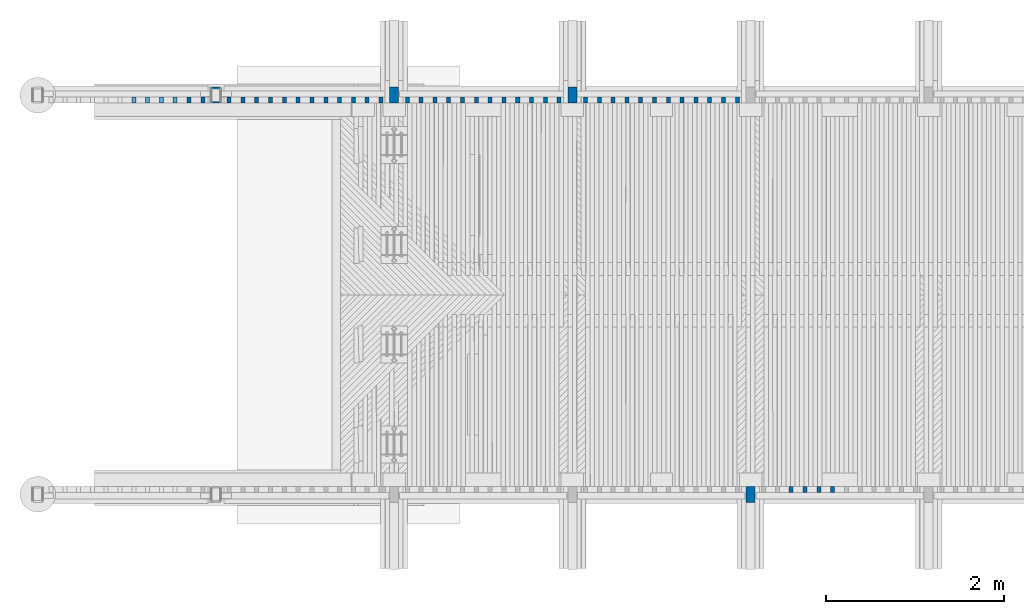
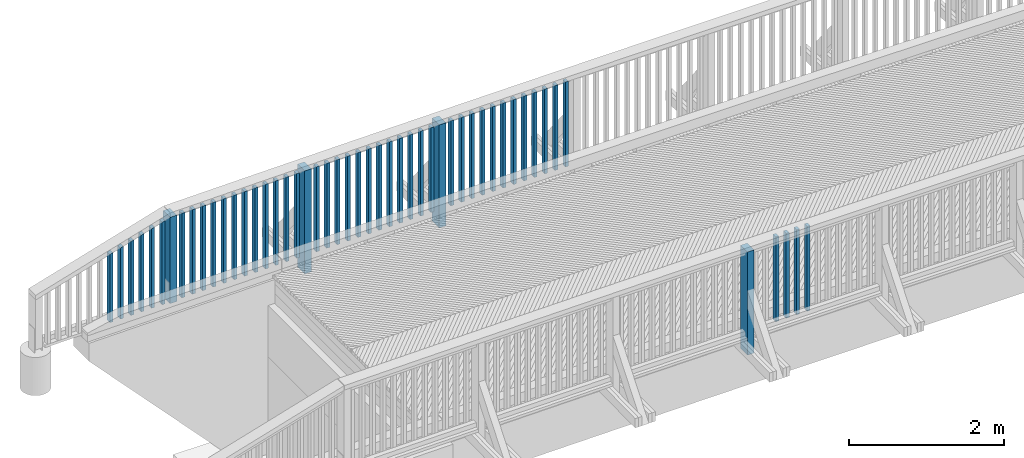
# One storey, part 7 of 53: 50 columns.
"""IFC2X3 building model written with IfcOpenShell, lengths in millimetres."""

from ifc_helpers import new_model, si_unit, frame, origin_with_axes, place, context, subcontext, project, spatial, faceted_brep, material, type_object, element, save


model = new_model("IFC2X3")

# Units and contexts
model_context = context("Model", 3, precision=1e-05, world=origin_with_axes())
body_context = subcontext(model_context, "Body", "Model", "MODEL_VIEW")
ifc_project = project(units=[si_unit("LENGTHUNIT", "METRE", prefix="MILLI"), si_unit("AREAUNIT", "SQUARE_METRE"), si_unit("VOLUMEUNIT", "CUBIC_METRE"), si_unit("MASSUNIT", "GRAM", prefix="KILO"), si_unit("TIMEUNIT", "SECOND"), si_unit("PLANEANGLEUNIT", "RADIAN"), si_unit("SOLIDANGLEUNIT", "STERADIAN"), si_unit("THERMODYNAMICTEMPERATUREUNIT", "DEGREE_CELSIUS"), si_unit("LUMINOUSINTENSITYUNIT", "LUMEN")], contexts=[model_context])

# Site, building, storey
site_placement = place(None, origin_with_axes())
site = spatial("IfcSite", under=ifc_project, at=site_placement, Name="Undefined", CompositionType="ELEMENT")
building_placement = place(site_placement, origin_with_axes())
building = spatial("IfcBuilding", under=site, at=building_placement, Name="Undefined", CompositionType="ELEMENT")
storey_placement = place(building_placement, origin_with_axes())
storey = spatial("IfcBuildingStorey", under=building, at=storey_placement, Name="Undefined", CompositionType="ELEMENT", Elevation=0.0)

# Columns
ifc_material = material(Name="TIMBER/Timber_Undefined")
column_type_1 = type_object("IfcColumnType", Name="180*100", PredefinedType="NOTDEFINED")
column_1_placement = place(storey_placement, frame((-1999.99999924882, 44604.9879080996, 3128.37999999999), z_axis=(0.0, -1.0, 0.0), x_axis=(0.0, 0.0, 1.0)))
element("IfcColumn", 1, at=column_1_placement, inside=storey, type_object=column_type_1, material=ifc_material, Name="KAIDEPYLVÄS", ObjectType="180*100", context=body_context, shape_type="Brep", body=[
    faceted_brep([(-5.71000000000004, 50.0, -90.0), (-5.71000000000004, 50.0, 90.0), (1351.21940355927, 50.0, 90.0), (1351.21940355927, 50.0, -90.0), (-5.71000000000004, -50.0, 90.0), (1352.87649222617, -50.0, 90.0), (-5.71000000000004, -50.0, -90.0), (1352.87649222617, -50.0, -90.0)], [[[0, 1, 2, 3]], [[1, 4, 5, 2]], [[4, 6, 7, 5]], [[6, 0, 3, 7]], [[5, 7, 3, 2]], [[6, 4, 1, 0]]]),
])
for number, where, z_axis, x_axis in (
    (2, (2000.00006783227, 44604.9879081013, 2913.46176658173), (0.0, -1.0, 0.0), (0.0, 0.0, 1.0)),
    (3, (7.51175548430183e-07, 44604.9879081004, 2890.26), (0.0, -1.0, 0.0), (0.0, 0.0, 1.0)),
    (4, (4000.00006783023, 40125.0120918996, 2930.03388043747), (0.0, 1.0, 0.0), (0.0, 0.0, 1.0)),
):
    element("IfcColumn", number, at=place(storey_placement, frame(where, z_axis=z_axis, x_axis=x_axis)), inside=storey, type_object=column_type_1, material=ifc_material, Name="KAIDEPYLVÄS", ObjectType="180*100", context=body_context, shape_type="Brep", body=[
        faceted_brep([(0.0, 50.0, -89.9999999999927), (0.0, 50.0, 90.0), (1620.0, 50.0, 90.0), (1620.0, 50.0, -90.0), (0.0, -49.9999999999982, 90.0000000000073), (1620.0, -50.0, 90.0), (-3.63797880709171e-12, -49.9999999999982, -90.0), (1620.0, -50.0, -90.0)], [[[0, 1, 2, 3]], [[1, 4, 5, 2]], [[4, 6, 7, 5]], [[6, 0, 3, 7]], [[5, 7, 3, 2]], [[6, 4, 1, 0]]]),
    ])
column_type_2 = type_object("IfcColumnType", Name="70*45", PredefinedType="NOTDEFINED")
column_2_placement = place(storey_placement, frame((-2147.49999924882, 44549.9879080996, 3079.15), z_axis=(0.0, 1.0, 0.0), x_axis=(0.0, 0.0, 1.0)))
element("IfcColumn", 5, at=column_2_placement, inside=storey, type_object=column_type_2, material=ifc_material, Name="BEAM", ObjectType="70*45", context=body_context, shape_type="Brep", body=[
    faceted_brep([(69.4380529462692, 22.5, -35.0), (69.4380529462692, 22.5, 35.0), (1375.94682334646, 22.5, 35.0), (1375.94682334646, 22.5, -35.0), (68.751055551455, -22.5, 35.0), (1362.51131766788, -22.5, 35.0), (68.751055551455, -22.5, -35.0), (1362.51131766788, -22.5, -35.0)], [[[0, 1, 2, 3]], [[1, 4, 5, 2]], [[4, 6, 7, 5]], [[6, 0, 3, 7]], [[5, 7, 3, 2]], [[6, 4, 1, 0]]]),
])
column_3_placement = place(storey_placement, frame((-2302.49999924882, 44549.9879080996, 3079.15), z_axis=(0.0, 1.0, 0.0), x_axis=(0.0, 0.0, 1.0)))
element("IfcColumn", 6, at=column_3_placement, inside=storey, type_object=column_type_2, material=ifc_material, Name="BEAM", ObjectType="70*45", context=body_context, shape_type="Brep", body=[
    faceted_brep([(67.0717285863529, 22.5, -35.0), (67.0717285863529, 22.5, 35.0), (1329.66897045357, 22.5, 35.0), (1329.66897045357, 22.5, -35.0), (66.3847311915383, -22.5, 35.0), (1316.23346477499, -22.5, 35.0), (66.3847311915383, -22.5, -35.0), (1316.23346477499, -22.5, -35.0)], [[[0, 1, 2, 3]], [[1, 4, 5, 2]], [[4, 6, 7, 5]], [[6, 0, 3, 7]], [[5, 7, 3, 2]], [[6, 4, 1, 0]]]),
])
column_4_placement = place(storey_placement, frame((-2457.49999924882, 44549.9879080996, 3079.15), z_axis=(0.0, 1.0, 0.0), x_axis=(0.0, 0.0, 1.0)))
element("IfcColumn", 7, at=column_4_placement, inside=storey, type_object=column_type_2, material=ifc_material, Name="BEAM", ObjectType="70*45", context=body_context, shape_type="Brep", body=[
    faceted_brep([(64.7054042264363, 22.5, -35.0), (64.7054042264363, 22.5, 35.0), (1283.39111756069, 22.5, 35.0), (1283.39111756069, 22.5, -35.0), (64.0184068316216, -22.5, 35.0), (1269.95561188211, -22.5, 35.0), (64.0184068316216, -22.5, -35.0), (1269.95561188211, -22.5, -35.0)], [[[0, 1, 2, 3]], [[1, 4, 5, 2]], [[4, 6, 7, 5]], [[6, 0, 3, 7]], [[5, 7, 3, 2]], [[6, 4, 1, 0]]]),
])
column_5_placement = place(storey_placement, frame((-2612.49999924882, 44549.9879080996, 3079.15), z_axis=(0.0, 1.0, 0.0), x_axis=(0.0, 0.0, 1.0)))
element("IfcColumn", 8, at=column_5_placement, inside=storey, type_object=column_type_2, material=ifc_material, Name="BEAM", ObjectType="70*45", context=body_context, shape_type="Brep", body=[
    faceted_brep([(62.3390798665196, 22.5, -35.0), (62.3390798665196, 22.5, 35.0), (1237.1132646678, 22.5, 35.0), (1237.1132646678, 22.5, -35.0), (61.6520824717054, -22.5, 35.0), (1223.67775898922, -22.5, 35.0), (61.6520824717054, -22.5, -35.0), (1223.67775898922, -22.5, -35.0)], [[[0, 1, 2, 3]], [[1, 4, 5, 2]], [[4, 6, 7, 5]], [[6, 0, 3, 7]], [[5, 7, 3, 2]], [[6, 4, 1, 0]]]),
])
column_6_placement = place(storey_placement, frame((-2767.49999924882, 44549.9879080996, 3079.15), z_axis=(0.0, 1.0, 0.0), x_axis=(0.0, 0.0, 1.0)))
element("IfcColumn", 9, at=column_6_placement, inside=storey, type_object=column_type_2, material=ifc_material, Name="BEAM", ObjectType="70*45", context=body_context, shape_type="Brep", body=[
    faceted_brep([(59.9727555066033, 22.5, -35.0), (59.9727555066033, 22.5, 35.0), (1190.83541177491, 22.5, 35.0), (1190.83541177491, 22.5, -35.0), (59.2857581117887, -22.5, 35.0), (1177.39990609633, -22.5, 35.0), (59.2857581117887, -22.5, -35.0), (1177.39990609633, -22.5, -35.0)], [[[0, 1, 2, 3]], [[1, 4, 5, 2]], [[4, 6, 7, 5]], [[6, 0, 3, 7]], [[5, 7, 3, 2]], [[6, 4, 1, 0]]]),
])
column_7_placement = place(storey_placement, frame((-2922.49999924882, 44549.9879080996, 3079.15), z_axis=(0.0, 1.0, 0.0), x_axis=(0.0, 0.0, 1.0)))
element("IfcColumn", 10, at=column_7_placement, inside=storey, type_object=column_type_2, material=ifc_material, Name="BEAM", ObjectType="70*45", context=body_context, shape_type="Brep", body=[
    faceted_brep([(57.6064311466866, 22.5, -35.0), (57.6064311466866, 22.5, 35.0), (1144.55755888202, 22.5, 35.0), (1144.55755888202, 22.5, -35.0), (56.9194337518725, -22.5, 35.0), (1131.12205320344, -22.5, 35.0), (56.9194337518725, -22.5, -35.0), (1131.12205320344, -22.5, -35.0)], [[[0, 1, 2, 3]], [[1, 4, 5, 2]], [[4, 6, 7, 5]], [[6, 0, 3, 7]], [[5, 7, 3, 2]], [[6, 4, 1, 0]]]),
])
column_8_placement = place(storey_placement, frame((-147.499999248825, 44549.9879080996, 3109.68000000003), z_axis=(0.0, 1.0, 0.0), x_axis=(0.0, 0.0, 1.0)))
element("IfcColumn", 11, at=column_8_placement, inside=storey, type_object=column_type_2, material=ifc_material, Name="BEAM", ObjectType="70*45", context=body_context, shape_type="Brep", body=[
    faceted_brep([(69.4380529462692, 22.5, -35.0), (69.4380529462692, 22.5, 35.0), (1399.43805294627, 22.5, 35.0), (1399.43805294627, 22.5, -35.0), (68.751055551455, -22.5, 35.0), (1398.75105555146, -22.5, 35.0), (68.751055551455, -22.5, -35.0), (1398.75105555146, -22.5, -35.0)], [[[0, 1, 2, 3]], [[1, 4, 5, 2]], [[4, 6, 7, 5]], [[6, 0, 3, 7]], [[5, 7, 3, 2]], [[6, 4, 1, 0]]]),
])
column_9_placement = place(storey_placement, frame((-302.499999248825, 44549.9879080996, 3109.68000000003), z_axis=(0.0, 1.0, 0.0), x_axis=(0.0, 0.0, 1.0)))
element("IfcColumn", 12, at=column_9_placement, inside=storey, type_object=column_type_2, material=ifc_material, Name="BEAM", ObjectType="70*45", context=body_context, shape_type="Brep", body=[
    faceted_brep([(67.0717285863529, 22.5, -35.0), (67.0717285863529, 22.5, 35.0), (1397.07172858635, 22.5, 35.0), (1397.07172858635, 22.5, -35.0), (66.3847311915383, -22.5, 35.0), (1396.38473119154, -22.5, 35.0), (66.3847311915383, -22.5, -35.0), (1396.38473119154, -22.5, -35.0)], [[[0, 1, 2, 3]], [[1, 4, 5, 2]], [[4, 6, 7, 5]], [[6, 0, 3, 7]], [[5, 7, 3, 2]], [[6, 4, 1, 0]]]),
])
column_10_placement = place(storey_placement, frame((-457.499999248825, 44549.9879080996, 3109.68000000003), z_axis=(0.0, 1.0, 0.0), x_axis=(0.0, 0.0, 1.0)))
element("IfcColumn", 13, at=column_10_placement, inside=storey, type_object=column_type_2, material=ifc_material, Name="BEAM", ObjectType="70*45", context=body_context, shape_type="Brep", body=[
    faceted_brep([(64.7054042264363, 22.5, -35.0), (64.7054042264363, 22.5, 35.0), (1394.70540422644, 22.5, 35.0), (1394.70540422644, 22.5, -35.0), (64.0184068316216, -22.5, 35.0), (1394.01840683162, -22.5, 35.0), (64.0184068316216, -22.5, -35.0), (1394.01840683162, -22.5, -35.0)], [[[0, 1, 2, 3]], [[1, 4, 5, 2]], [[4, 6, 7, 5]], [[6, 0, 3, 7]], [[5, 7, 3, 2]], [[6, 4, 1, 0]]]),
])
column_11_placement = place(storey_placement, frame((-612.499999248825, 44549.9879080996, 3109.68000000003), z_axis=(0.0, 1.0, 0.0), x_axis=(0.0, 0.0, 1.0)))
element("IfcColumn", 14, at=column_11_placement, inside=storey, type_object=column_type_2, material=ifc_material, Name="BEAM", ObjectType="70*45", context=body_context, shape_type="Brep", body=[
    faceted_brep([(62.3390798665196, 22.5, -35.0), (62.3390798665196, 22.5, 35.0), (1392.33907986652, 22.5, 35.0), (1392.33907986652, 22.5, -35.0), (61.6520824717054, -22.5, 35.0), (1391.65208247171, -22.5, 35.0), (61.6520824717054, -22.5, -35.0), (1391.65208247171, -22.5, -35.0)], [[[0, 1, 2, 3]], [[1, 4, 5, 2]], [[4, 6, 7, 5]], [[6, 0, 3, 7]], [[5, 7, 3, 2]], [[6, 4, 1, 0]]]),
])
column_12_placement = place(storey_placement, frame((-767.499999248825, 44549.9879080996, 3109.68000000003), z_axis=(0.0, 1.0, 0.0), x_axis=(0.0, 0.0, 1.0)))
element("IfcColumn", 15, at=column_12_placement, inside=storey, type_object=column_type_2, material=ifc_material, Name="BEAM", ObjectType="70*45", context=body_context, shape_type="Brep", body=[
    faceted_brep([(59.9727555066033, 22.5, -35.0), (59.9727555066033, 22.5, 35.0), (1389.97275550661, 22.5, 35.0), (1389.97275550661, 22.5, -35.0), (59.2857581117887, -22.5, 35.0), (1389.28575811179, -22.5, 35.0), (59.2857581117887, -22.5, -35.0), (1389.28575811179, -22.5, -35.0)], [[[0, 1, 2, 3]], [[1, 4, 5, 2]], [[4, 6, 7, 5]], [[6, 0, 3, 7]], [[5, 7, 3, 2]], [[6, 4, 1, 0]]]),
])
column_13_placement = place(storey_placement, frame((-922.499999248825, 44549.9879080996, 3109.68000000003), z_axis=(0.0, 1.0, 0.0), x_axis=(0.0, 0.0, 1.0)))
element("IfcColumn", 16, at=column_13_placement, inside=storey, type_object=column_type_2, material=ifc_material, Name="BEAM", ObjectType="70*45", context=body_context, shape_type="Brep", body=[
    faceted_brep([(57.6064311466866, 22.5, -35.0), (57.6064311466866, 22.5, 35.0), (1387.60643114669, 22.5, 35.0), (1387.60643114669, 22.5, -35.0), (56.9194337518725, -22.5, 35.0), (1386.91943375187, -22.5, 35.0), (56.9194337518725, -22.5, -35.0), (1386.91943375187, -22.5, -35.0)], [[[0, 1, 2, 3]], [[1, 4, 5, 2]], [[4, 6, 7, 5]], [[6, 0, 3, 7]], [[5, 7, 3, 2]], [[6, 4, 1, 0]]]),
])
column_14_placement = place(storey_placement, frame((-1077.49999924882, 44549.9879080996, 3109.68000000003), z_axis=(0.0, 1.0, 0.0), x_axis=(0.0, 0.0, 1.0)))
element("IfcColumn", 17, at=column_14_placement, inside=storey, type_object=column_type_2, material=ifc_material, Name="BEAM", ObjectType="70*45", context=body_context, shape_type="Brep", body=[
    faceted_brep([(55.2401067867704, 22.5, -35.0), (55.2401067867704, 22.5, 35.0), (1385.24010678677, 22.5, 35.0), (1385.24010678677, 22.5, -35.0), (54.5531093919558, -22.5, 35.0), (1384.55310939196, -22.5, 35.0), (54.5531093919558, -22.5, -35.0), (1384.55310939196, -22.5, -35.0)], [[[0, 1, 2, 3]], [[1, 4, 5, 2]], [[4, 6, 7, 5]], [[6, 0, 3, 7]], [[5, 7, 3, 2]], [[6, 4, 1, 0]]]),
])
column_15_placement = place(storey_placement, frame((-1232.49999924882, 44549.9879080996, 3109.68000000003), z_axis=(0.0, 1.0, 0.0), x_axis=(0.0, 0.0, 1.0)))
element("IfcColumn", 18, at=column_15_placement, inside=storey, type_object=column_type_2, material=ifc_material, Name="BEAM", ObjectType="70*45", context=body_context, shape_type="Brep", body=[
    faceted_brep([(52.8737824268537, 22.5, -35.0), (52.8737824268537, 22.5, 35.0), (1382.87378242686, 22.5, 35.0), (1382.87378242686, 22.5, -35.0), (52.1867850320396, -22.5, 35.0), (1382.18678503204, -22.5, 35.0), (52.1867850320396, -22.5, -35.0), (1382.18678503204, -22.5, -35.0)], [[[0, 1, 2, 3]], [[1, 4, 5, 2]], [[4, 6, 7, 5]], [[6, 0, 3, 7]], [[5, 7, 3, 2]], [[6, 4, 1, 0]]]),
])
column_16_placement = place(storey_placement, frame((-1387.49999924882, 44549.9879080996, 3109.68000000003), z_axis=(0.0, 1.0, 0.0), x_axis=(0.0, 0.0, 1.0)))
element("IfcColumn", 19, at=column_16_placement, inside=storey, type_object=column_type_2, material=ifc_material, Name="BEAM", ObjectType="70*45", context=body_context, shape_type="Brep", body=[
    faceted_brep([(50.5074580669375, 22.5, -35.0), (50.5074580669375, 22.5, 35.0), (1380.50745806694, 22.5, 35.0), (1380.50745806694, 22.5, -35.0), (49.8204606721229, -22.5, 35.0), (1379.82046067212, -22.5, 35.0), (49.8204606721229, -22.5, -35.0), (1379.82046067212, -22.5, -35.0)], [[[0, 1, 2, 3]], [[1, 4, 5, 2]], [[4, 6, 7, 5]], [[6, 0, 3, 7]], [[5, 7, 3, 2]], [[6, 4, 1, 0]]]),
])
column_17_placement = place(storey_placement, frame((-1542.49999924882, 44549.9879080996, 3109.68000000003), z_axis=(0.0, 1.0, 0.0), x_axis=(0.0, 0.0, 1.0)))
element("IfcColumn", 20, at=column_17_placement, inside=storey, type_object=column_type_2, material=ifc_material, Name="BEAM", ObjectType="70*45", context=body_context, shape_type="Brep", body=[
    faceted_brep([(48.1411337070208, 22.5, -35.0), (48.1411337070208, 22.5, 35.0), (1378.14113370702, 22.5, 35.0), (1378.14113370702, 22.5, -35.0), (47.4541363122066, -22.5, 35.0), (1377.45413631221, -22.5, 35.0), (47.4541363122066, -22.5, -35.0), (1377.45413631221, -22.5, -35.0)], [[[0, 1, 2, 3]], [[1, 4, 5, 2]], [[4, 6, 7, 5]], [[6, 0, 3, 7]], [[5, 7, 3, 2]], [[6, 4, 1, 0]]]),
])
column_18_placement = place(storey_placement, frame((-1697.49999924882, 44549.9879080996, 3109.68000000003), z_axis=(0.0, 1.0, 0.0), x_axis=(0.0, 0.0, 1.0)))
element("IfcColumn", 21, at=column_18_placement, inside=storey, type_object=column_type_2, material=ifc_material, Name="BEAM", ObjectType="70*45", context=body_context, shape_type="Brep", body=[
    faceted_brep([(45.7748093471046, 22.5, -35.0), (45.7748093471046, 22.5, 35.0), (1375.77480934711, 22.5, 35.0), (1375.77480934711, 22.5, -35.0), (45.0878119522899, -22.5, 35.0), (1375.08781195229, -22.5, 35.0), (45.0878119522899, -22.5, -35.0), (1375.08781195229, -22.5, -35.0)], [[[0, 1, 2, 3]], [[1, 4, 5, 2]], [[4, 6, 7, 5]], [[6, 0, 3, 7]], [[5, 7, 3, 2]], [[6, 4, 1, 0]]]),
])
column_19_placement = place(storey_placement, frame((-1852.49999924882, 44549.9879080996, 3109.68000000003), z_axis=(0.0, 1.0, 0.0), x_axis=(0.0, 0.0, 1.0)))
element("IfcColumn", 22, at=column_19_placement, inside=storey, type_object=column_type_2, material=ifc_material, Name="BEAM", ObjectType="70*45", context=body_context, shape_type="Brep", body=[
    faceted_brep([(43.4084849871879, 22.5, -35.0), (43.4084849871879, 22.5, 35.0), (1373.40848498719, 22.5, 35.0), (1373.40848498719, 22.5, -35.0), (42.7214875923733, -22.5, 35.0), (1372.72148759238, -22.5, 35.0), (42.7214875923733, -22.5, -35.0), (1372.72148759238, -22.5, -35.0)], [[[0, 1, 2, 3]], [[1, 4, 5, 2]], [[4, 6, 7, 5]], [[6, 0, 3, 7]], [[5, 7, 3, 2]], [[6, 4, 1, 0]]]),
])
column_20_placement = place(storey_placement, frame((3852.50000075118, 44549.9879080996, 3109.68000000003), z_axis=(0.0, 1.0, 0.0), x_axis=(0.0, 0.0, 1.0)))
element("IfcColumn", 23, at=column_20_placement, inside=storey, type_object=column_type_2, material=ifc_material, Name="BEAM", ObjectType="70*45", context=body_context, shape_type="Brep", body=[
    faceted_brep([(104.706302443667, 22.5, -35.0), (104.706302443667, 22.5, 35.0), (1439.69971686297, 22.5, 35.0), (1439.69971686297, 22.5, -35.0), (104.313805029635, -22.5, 35.0), (1439.30721944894, -22.5, 35.0), (104.313805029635, -22.5, -35.0), (1439.30721944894, -22.5, -35.0)], [[[0, 1, 2, 3]], [[1, 4, 5, 2]], [[4, 6, 7, 5]], [[6, 0, 3, 7]], [[5, 7, 3, 2]], [[6, 4, 1, 0]]]),
])
column_21_placement = place(storey_placement, frame((3697.50000075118, 44549.9879080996, 3109.68000000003), z_axis=(0.0, 1.0, 0.0), x_axis=(0.0, 0.0, 1.0)))
element("IfcColumn", 24, at=column_21_placement, inside=storey, type_object=column_type_2, material=ifc_material, Name="BEAM", ObjectType="70*45", context=body_context, shape_type="Brep", body=[
    faceted_brep([(103.354366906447, 22.5, -35.0), (103.354366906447, 22.5, 35.0), (1438.34778132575, 22.5, 35.0), (1438.34778132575, 22.5, -35.0), (102.961869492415, -22.5, 35.0), (1437.95528391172, -22.5, 35.0), (102.961869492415, -22.5, -35.0), (1437.95528391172, -22.5, -35.0)], [[[0, 1, 2, 3]], [[1, 4, 5, 2]], [[4, 6, 7, 5]], [[6, 0, 3, 7]], [[5, 7, 3, 2]], [[6, 4, 1, 0]]]),
])
column_22_placement = place(storey_placement, frame((3542.50000075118, 44549.9879080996, 3109.68000000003), z_axis=(0.0, 1.0, 0.0), x_axis=(0.0, 0.0, 1.0)))
element("IfcColumn", 25, at=column_22_placement, inside=storey, type_object=column_type_2, material=ifc_material, Name="BEAM", ObjectType="70*45", context=body_context, shape_type="Brep", body=[
    faceted_brep([(102.002431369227, 22.5, -35.0), (102.002431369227, 22.5, 35.0), (1436.99584578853, 22.5, 35.0), (1436.99584578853, 22.5, -35.0), (101.609933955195, -22.5, 35.0), (1436.6033483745, -22.5, 35.0), (101.609933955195, -22.5, -35.0), (1436.6033483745, -22.5, -35.0)], [[[0, 1, 2, 3]], [[1, 4, 5, 2]], [[4, 6, 7, 5]], [[6, 0, 3, 7]], [[5, 7, 3, 2]], [[6, 4, 1, 0]]]),
])
column_23_placement = place(storey_placement, frame((3387.50000075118, 44549.9879080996, 3109.68000000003), z_axis=(0.0, 1.0, 0.0), x_axis=(0.0, 0.0, 1.0)))
element("IfcColumn", 26, at=column_23_placement, inside=storey, type_object=column_type_2, material=ifc_material, Name="BEAM", ObjectType="70*45", context=body_context, shape_type="Brep", body=[
    faceted_brep([(100.650495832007, 22.5, -35.0), (100.650495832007, 22.5, 35.0), (1435.64391025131, 22.5, 35.0), (1435.64391025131, 22.5, -35.0), (100.257998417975, -22.5, 35.0), (1435.25141283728, -22.5, 35.0), (100.257998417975, -22.5, -35.0), (1435.25141283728, -22.5, -35.0)], [[[0, 1, 2, 3]], [[1, 4, 5, 2]], [[4, 6, 7, 5]], [[6, 0, 3, 7]], [[5, 7, 3, 2]], [[6, 4, 1, 0]]]),
])
column_24_placement = place(storey_placement, frame((3232.50000075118, 44549.9879080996, 3109.68000000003), z_axis=(0.0, 1.0, 0.0), x_axis=(0.0, 0.0, 1.0)))
element("IfcColumn", 27, at=column_24_placement, inside=storey, type_object=column_type_2, material=ifc_material, Name="BEAM", ObjectType="70*45", context=body_context, shape_type="Brep", body=[
    faceted_brep([(99.2985602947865, 22.5, -35.0), (99.2985602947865, 22.5, 35.0), (1434.29197471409, 22.5, 35.0), (1434.29197471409, 22.5, -35.0), (98.9060628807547, -22.5, 35.0), (1433.89947730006, -22.5, 35.0), (98.9060628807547, -22.5, -35.0), (1433.89947730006, -22.5, -35.0)], [[[0, 1, 2, 3]], [[1, 4, 5, 2]], [[4, 6, 7, 5]], [[6, 0, 3, 7]], [[5, 7, 3, 2]], [[6, 4, 1, 0]]]),
])
column_25_placement = place(storey_placement, frame((3077.50000075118, 44549.9879080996, 3109.68000000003), z_axis=(0.0, 1.0, 0.0), x_axis=(0.0, 0.0, 1.0)))
element("IfcColumn", 28, at=column_25_placement, inside=storey, type_object=column_type_2, material=ifc_material, Name="BEAM", ObjectType="70*45", context=body_context, shape_type="Brep", body=[
    faceted_brep([(97.9466247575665, 22.5, -35.0), (97.9466247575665, 22.5, 35.0), (1432.94003917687, 22.5, 35.0), (1432.94003917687, 22.5, -35.0), (97.5541273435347, -22.5, 35.0), (1432.54754176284, -22.5, 35.0), (97.5541273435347, -22.5, -35.0), (1432.54754176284, -22.5, -35.0)], [[[0, 1, 2, 3]], [[1, 4, 5, 2]], [[4, 6, 7, 5]], [[6, 0, 3, 7]], [[5, 7, 3, 2]], [[6, 4, 1, 0]]]),
])
column_26_placement = place(storey_placement, frame((2922.50000075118, 44549.9879080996, 3109.68000000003), z_axis=(0.0, 1.0, 0.0), x_axis=(0.0, 0.0, 1.0)))
element("IfcColumn", 29, at=column_26_placement, inside=storey, type_object=column_type_2, material=ifc_material, Name="BEAM", ObjectType="70*45", context=body_context, shape_type="Brep", body=[
    faceted_brep([(96.5946892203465, 22.5, -35.0), (96.5946892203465, 22.5, 35.0), (1431.58810363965, 22.5, 35.0), (1431.58810363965, 22.5, -35.0), (96.2021918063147, -22.5, 35.0), (1431.19560622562, -22.5, 35.0), (96.2021918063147, -22.5, -35.0), (1431.19560622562, -22.5, -35.0)], [[[0, 1, 2, 3]], [[1, 4, 5, 2]], [[4, 6, 7, 5]], [[6, 0, 3, 7]], [[5, 7, 3, 2]], [[6, 4, 1, 0]]]),
])
column_27_placement = place(storey_placement, frame((2767.50000075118, 44549.9879080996, 3109.68000000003), z_axis=(0.0, 1.0, 0.0), x_axis=(0.0, 0.0, 1.0)))
element("IfcColumn", 30, at=column_27_placement, inside=storey, type_object=column_type_2, material=ifc_material, Name="BEAM", ObjectType="70*45", context=body_context, shape_type="Brep", body=[
    faceted_brep([(95.242753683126, 22.5, -35.0), (95.242753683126, 22.5, 35.0), (1430.23616810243, 22.5, 35.0), (1430.23616810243, 22.5, -35.0), (94.8502562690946, -22.5, 35.0), (1429.8436706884, -22.5, 35.0), (94.8502562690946, -22.5, -35.0), (1429.8436706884, -22.5, -35.0)], [[[0, 1, 2, 3]], [[1, 4, 5, 2]], [[4, 6, 7, 5]], [[6, 0, 3, 7]], [[5, 7, 3, 2]], [[6, 4, 1, 0]]]),
])
column_28_placement = place(storey_placement, frame((2612.50000075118, 44549.9879080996, 3109.68000000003), z_axis=(0.0, 1.0, 0.0), x_axis=(0.0, 0.0, 1.0)))
element("IfcColumn", 31, at=column_28_placement, inside=storey, type_object=column_type_2, material=ifc_material, Name="BEAM", ObjectType="70*45", context=body_context, shape_type="Brep", body=[
    faceted_brep([(93.890818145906, 22.5, -35.0), (93.890818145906, 22.5, 35.0), (1428.88423256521, 22.5, 35.0), (1428.88423256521, 22.5, -35.0), (93.4983207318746, -22.5, 35.0), (1428.49173515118, -22.5, 35.0), (93.4983207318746, -22.5, -35.0), (1428.49173515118, -22.5, -35.0)], [[[0, 1, 2, 3]], [[1, 4, 5, 2]], [[4, 6, 7, 5]], [[6, 0, 3, 7]], [[5, 7, 3, 2]], [[6, 4, 1, 0]]]),
])
column_29_placement = place(storey_placement, frame((2457.50000075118, 44549.9879080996, 3109.68000000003), z_axis=(0.0, 1.0, 0.0), x_axis=(0.0, 0.0, 1.0)))
element("IfcColumn", 32, at=column_29_placement, inside=storey, type_object=column_type_2, material=ifc_material, Name="BEAM", ObjectType="70*45", context=body_context, shape_type="Brep", body=[
    faceted_brep([(92.538882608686, 22.5, -35.0), (92.538882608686, 22.5, 35.0), (1427.53229702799, 22.5, 35.0), (1427.53229702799, 22.5, -35.0), (92.1463851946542, -22.5, 35.0), (1427.13979961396, -22.5, 35.0), (92.1463851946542, -22.5, -35.0), (1427.13979961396, -22.5, -35.0)], [[[0, 1, 2, 3]], [[1, 4, 5, 2]], [[4, 6, 7, 5]], [[6, 0, 3, 7]], [[5, 7, 3, 2]], [[6, 4, 1, 0]]]),
])
column_30_placement = place(storey_placement, frame((2302.50000075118, 44549.9879080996, 3109.68000000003), z_axis=(0.0, 1.0, 0.0), x_axis=(0.0, 0.0, 1.0)))
element("IfcColumn", 33, at=column_30_placement, inside=storey, type_object=column_type_2, material=ifc_material, Name="BEAM", ObjectType="70*45", context=body_context, shape_type="Brep", body=[
    faceted_brep([(91.186947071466, 22.5, -35.0), (91.186947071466, 22.5, 35.0), (1426.18036149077, 22.5, 35.0), (1426.18036149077, 22.5, -35.0), (90.7944496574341, -22.5, 35.0), (1425.78786407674, -22.5, 35.0), (90.7944496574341, -22.5, -35.0), (1425.78786407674, -22.5, -35.0)], [[[0, 1, 2, 3]], [[1, 4, 5, 2]], [[4, 6, 7, 5]], [[6, 0, 3, 7]], [[5, 7, 3, 2]], [[6, 4, 1, 0]]]),
])
column_31_placement = place(storey_placement, frame((2147.50000075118, 44549.9879080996, 3109.68000000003), z_axis=(0.0, 1.0, 0.0), x_axis=(0.0, 0.0, 1.0)))
element("IfcColumn", 34, at=column_31_placement, inside=storey, type_object=column_type_2, material=ifc_material, Name="BEAM", ObjectType="70*45", context=body_context, shape_type="Brep", body=[
    faceted_brep([(89.835011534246, 22.5, -35.0), (89.835011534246, 22.5, 35.0), (1424.82842595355, 22.5, 35.0), (1424.82842595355, 22.5, -35.0), (89.4425141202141, -22.5, 35.0), (1424.43592853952, -22.5, 35.0), (89.4425141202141, -22.5, -35.0), (1424.43592853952, -22.5, -35.0)], [[[0, 1, 2, 3]], [[1, 4, 5, 2]], [[4, 6, 7, 5]], [[6, 0, 3, 7]], [[5, 7, 3, 2]], [[6, 4, 1, 0]]]),
])
column_32_placement = place(storey_placement, frame((1852.50000075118, 44549.9879080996, 3109.68000000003), z_axis=(0.0, 1.0, 0.0), x_axis=(0.0, 0.0, 1.0)))
element("IfcColumn", 35, at=column_32_placement, inside=storey, type_object=column_type_2, material=ifc_material, Name="BEAM", ObjectType="70*45", context=body_context, shape_type="Brep", body=[
    faceted_brep([(87.8699353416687, 22.5, -35.0), (87.8699353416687, 22.5, 35.0), (1422.86590579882, 22.5, 35.0), (1422.86590579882, 22.5, -35.0), (87.3204198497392, -22.5, 35.0), (1422.31639030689, -22.5, 35.0), (87.3204198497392, -22.5, -35.0), (1422.31639030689, -22.5, -35.0)], [[[0, 1, 2, 3]], [[1, 4, 5, 2]], [[4, 6, 7, 5]], [[6, 0, 3, 7]], [[5, 7, 3, 2]], [[6, 4, 1, 0]]]),
])
column_33_placement = place(storey_placement, frame((1697.50000075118, 44549.9879080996, 3109.68000000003), z_axis=(0.0, 1.0, 0.0), x_axis=(0.0, 0.0, 1.0)))
element("IfcColumn", 36, at=column_33_placement, inside=storey, type_object=column_type_2, material=ifc_material, Name="BEAM", ObjectType="70*45", context=body_context, shape_type="Brep", body=[
    faceted_brep([(85.9771597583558, 22.5, -35.0), (85.9771597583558, 22.5, 35.0), (1420.97313021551, 22.5, 35.0), (1420.97313021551, 22.5, -35.0), (85.4276442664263, -22.5, 35.0), (1420.42361472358, -22.5, 35.0), (85.4276442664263, -22.5, -35.0), (1420.42361472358, -22.5, -35.0)], [[[0, 1, 2, 3]], [[1, 4, 5, 2]], [[4, 6, 7, 5]], [[6, 0, 3, 7]], [[5, 7, 3, 2]], [[6, 4, 1, 0]]]),
])
column_34_placement = place(storey_placement, frame((1542.50000075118, 44549.9879080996, 3109.68000000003), z_axis=(0.0, 1.0, 0.0), x_axis=(0.0, 0.0, 1.0)))
element("IfcColumn", 37, at=column_34_placement, inside=storey, type_object=column_type_2, material=ifc_material, Name="BEAM", ObjectType="70*45", context=body_context, shape_type="Brep", body=[
    faceted_brep([(84.0843841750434, 22.5, -35.0), (84.0843841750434, 22.5, 35.0), (1419.0803546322, 22.5, 35.0), (1419.0803546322, 22.5, -35.0), (83.5348686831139, -22.5, 35.0), (1418.53083914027, -22.5, 35.0), (83.5348686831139, -22.5, -35.0), (1418.53083914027, -22.5, -35.0)], [[[0, 1, 2, 3]], [[1, 4, 5, 2]], [[4, 6, 7, 5]], [[6, 0, 3, 7]], [[5, 7, 3, 2]], [[6, 4, 1, 0]]]),
])
column_35_placement = place(storey_placement, frame((1387.50000075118, 44549.9879080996, 3109.68000000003), z_axis=(0.0, 1.0, 0.0), x_axis=(0.0, 0.0, 1.0)))
element("IfcColumn", 38, at=column_35_placement, inside=storey, type_object=column_type_2, material=ifc_material, Name="BEAM", ObjectType="70*45", context=body_context, shape_type="Brep", body=[
    faceted_brep([(82.191608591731, 22.5, -35.0), (82.191608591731, 22.5, 35.0), (1417.18757904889, 22.5, 35.0), (1417.18757904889, 22.5, -35.0), (81.6420930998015, -22.5, 35.0), (1416.63806355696, -22.5, 35.0), (81.6420930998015, -22.5, -35.0), (1416.63806355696, -22.5, -35.0)], [[[0, 1, 2, 3]], [[1, 4, 5, 2]], [[4, 6, 7, 5]], [[6, 0, 3, 7]], [[5, 7, 3, 2]], [[6, 4, 1, 0]]]),
])
column_36_placement = place(storey_placement, frame((1232.50000075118, 44549.9879080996, 3109.68000000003), z_axis=(0.0, 1.0, 0.0), x_axis=(0.0, 0.0, 1.0)))
element("IfcColumn", 39, at=column_36_placement, inside=storey, type_object=column_type_2, material=ifc_material, Name="BEAM", ObjectType="70*45", context=body_context, shape_type="Brep", body=[
    faceted_brep([(80.2988330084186, 22.5, -35.0), (80.2988330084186, 22.5, 35.0), (1415.29480346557, 22.5, 35.0), (1415.29480346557, 22.5, -35.0), (79.7493175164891, -22.5, 35.0), (1414.74528797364, -22.5, 35.0), (79.7493175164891, -22.5, -35.0), (1414.74528797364, -22.5, -35.0)], [[[0, 1, 2, 3]], [[1, 4, 5, 2]], [[4, 6, 7, 5]], [[6, 0, 3, 7]], [[5, 7, 3, 2]], [[6, 4, 1, 0]]]),
])
column_37_placement = place(storey_placement, frame((1077.50000075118, 44549.9879080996, 3109.68000000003), z_axis=(0.0, 1.0, 0.0), x_axis=(0.0, 0.0, 1.0)))
element("IfcColumn", 40, at=column_37_placement, inside=storey, type_object=column_type_2, material=ifc_material, Name="BEAM", ObjectType="70*45", context=body_context, shape_type="Brep", body=[
    faceted_brep([(78.4060574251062, 22.5, -35.0), (78.4060574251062, 22.5, 35.0), (1413.40202788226, 22.5, 35.0), (1413.40202788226, 22.5, -35.0), (77.8565419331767, -22.5, 35.0), (1412.85251239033, -22.5, 35.0), (77.8565419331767, -22.5, -35.0), (1412.85251239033, -22.5, -35.0)], [[[0, 1, 2, 3]], [[1, 4, 5, 2]], [[4, 6, 7, 5]], [[6, 0, 3, 7]], [[5, 7, 3, 2]], [[6, 4, 1, 0]]]),
])
column_38_placement = place(storey_placement, frame((922.500000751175, 44549.9879080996, 3109.68000000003), z_axis=(0.0, 1.0, 0.0), x_axis=(0.0, 0.0, 1.0)))
element("IfcColumn", 41, at=column_38_placement, inside=storey, type_object=column_type_2, material=ifc_material, Name="BEAM", ObjectType="70*45", context=body_context, shape_type="Brep", body=[
    faceted_brep([(76.5132818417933, 22.5, -35.0), (76.5132818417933, 22.5, 35.0), (1411.50925229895, 22.5, 35.0), (1411.50925229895, 22.5, -35.0), (75.9637663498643, -22.5, 35.0), (1410.95973680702, -22.5, 35.0), (75.9637663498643, -22.5, -35.0), (1410.95973680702, -22.5, -35.0)], [[[0, 1, 2, 3]], [[1, 4, 5, 2]], [[4, 6, 7, 5]], [[6, 0, 3, 7]], [[5, 7, 3, 2]], [[6, 4, 1, 0]]]),
])
column_39_placement = place(storey_placement, frame((767.500000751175, 44549.9879080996, 3109.68000000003), z_axis=(0.0, 1.0, 0.0), x_axis=(0.0, 0.0, 1.0)))
element("IfcColumn", 42, at=column_39_placement, inside=storey, type_object=column_type_2, material=ifc_material, Name="BEAM", ObjectType="70*45", context=body_context, shape_type="Brep", body=[
    faceted_brep([(74.6205062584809, 22.5, -35.0), (74.6205062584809, 22.5, 35.0), (1409.61647671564, 22.5, 35.0), (1409.61647671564, 22.5, -35.0), (74.0709907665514, -22.5, 35.0), (1409.06696122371, -22.5, 35.0), (74.0709907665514, -22.5, -35.0), (1409.06696122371, -22.5, -35.0)], [[[0, 1, 2, 3]], [[1, 4, 5, 2]], [[4, 6, 7, 5]], [[6, 0, 3, 7]], [[5, 7, 3, 2]], [[6, 4, 1, 0]]]),
])
column_40_placement = place(storey_placement, frame((612.500000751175, 44549.9879080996, 3109.68000000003), z_axis=(0.0, 1.0, 0.0), x_axis=(0.0, 0.0, 1.0)))
element("IfcColumn", 43, at=column_40_placement, inside=storey, type_object=column_type_2, material=ifc_material, Name="BEAM", ObjectType="70*45", context=body_context, shape_type="Brep", body=[
    faceted_brep([(72.7277306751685, 22.5, -35.0), (72.7277306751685, 22.5, 35.0), (1407.72370113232, 22.5, 35.0), (1407.72370113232, 22.5, -35.0), (72.178215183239, -22.5, 35.0), (1407.17418564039, -22.5, 35.0), (72.178215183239, -22.5, -35.0), (1407.17418564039, -22.5, -35.0)], [[[0, 1, 2, 3]], [[1, 4, 5, 2]], [[4, 6, 7, 5]], [[6, 0, 3, 7]], [[5, 7, 3, 2]], [[6, 4, 1, 0]]]),
])
column_41_placement = place(storey_placement, frame((457.500000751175, 44549.9879080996, 3109.68000000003), z_axis=(0.0, 1.0, 0.0), x_axis=(0.0, 0.0, 1.0)))
element("IfcColumn", 44, at=column_41_placement, inside=storey, type_object=column_type_2, material=ifc_material, Name="BEAM", ObjectType="70*45", context=body_context, shape_type="Brep", body=[
    faceted_brep([(70.834955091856, 22.5, -35.0), (70.834955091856, 22.5, 35.0), (1405.83092554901, 22.5, 35.0), (1405.83092554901, 22.5, -35.0), (70.2854395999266, -22.5, 35.0), (1405.28141005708, -22.5, 35.0), (70.2854395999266, -22.5, -35.0), (1405.28141005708, -22.5, -35.0)], [[[0, 1, 2, 3]], [[1, 4, 5, 2]], [[4, 6, 7, 5]], [[6, 0, 3, 7]], [[5, 7, 3, 2]], [[6, 4, 1, 0]]]),
])
column_42_placement = place(storey_placement, frame((302.500000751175, 44549.9879080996, 3109.68000000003), z_axis=(0.0, 1.0, 0.0), x_axis=(0.0, 0.0, 1.0)))
element("IfcColumn", 45, at=column_42_placement, inside=storey, type_object=column_type_2, material=ifc_material, Name="BEAM", ObjectType="70*45", context=body_context, shape_type="Brep", body=[
    faceted_brep([(68.9421795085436, 22.5, -35.0), (68.9421795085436, 22.5, 35.0), (1403.9381499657, 22.5, 35.0), (1403.9381499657, 22.5, -35.0), (68.3926640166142, -22.5, 35.0), (1403.38863447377, -22.5, 35.0), (68.3926640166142, -22.5, -35.0), (1403.38863447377, -22.5, -35.0)], [[[0, 1, 2, 3]], [[1, 4, 5, 2]], [[4, 6, 7, 5]], [[6, 0, 3, 7]], [[5, 7, 3, 2]], [[6, 4, 1, 0]]]),
])
column_43_placement = place(storey_placement, frame((147.500000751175, 44549.9879080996, 3109.68000000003), z_axis=(0.0, 1.0, 0.0), x_axis=(0.0, 0.0, 1.0)))
element("IfcColumn", 46, at=column_43_placement, inside=storey, type_object=column_type_2, material=ifc_material, Name="BEAM", ObjectType="70*45", context=body_context, shape_type="Brep", body=[
    faceted_brep([(67.0494039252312, 22.5, -35.0), (67.0494039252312, 22.5, 35.0), (1402.04537438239, 22.5, 35.0), (1402.04537438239, 22.5, -35.0), (66.4998884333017, -22.5, 35.0), (1401.49585889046, -22.5, 35.0), (66.4998884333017, -22.5, -35.0), (1401.49585889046, -22.5, -35.0)], [[[0, 1, 2, 3]], [[1, 4, 5, 2]], [[4, 6, 7, 5]], [[6, 0, 3, 7]], [[5, 7, 3, 2]], [[6, 4, 1, 0]]]),
])
column_44_placement = place(storey_placement, frame((4922.50000075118, 40180.0120919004, 3109.68000000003), z_axis=(0.0, -1.0, 0.0), x_axis=(0.0, 0.0, 1.0)))
element("IfcColumn", 47, at=column_44_placement, inside=storey, type_object=column_type_2, material=ifc_material, Name="BEAM", ObjectType="70*45", context=body_context, shape_type="Brep", body=[
    faceted_brep([(109.801129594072, 22.5, -35.0), (109.801129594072, 22.5, 35.0), (1444.80208810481, 22.5, 35.0), (1444.80208810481, 22.5, -35.0), (110.036622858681, -22.5, 35.0), (1445.03758136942, -22.5, 35.0), (110.036622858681, -22.5, -35.0), (1445.03758136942, -22.5, -35.0)], [[[0, 1, 2, 3]], [[1, 4, 5, 2]], [[4, 6, 7, 5]], [[6, 0, 3, 7]], [[5, 7, 3, 2]], [[6, 4, 1, 0]]]),
])
column_45_placement = place(storey_placement, frame((4767.50000075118, 40180.0120919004, 3109.68000000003), z_axis=(0.0, -1.0, 0.0), x_axis=(0.0, 0.0, 1.0)))
element("IfcColumn", 48, at=column_45_placement, inside=storey, type_object=column_type_2, material=ifc_material, Name="BEAM", ObjectType="70*45", context=body_context, shape_type="Brep", body=[
    faceted_brep([(108.989986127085, 22.5, -35.0), (108.989986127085, 22.5, 35.0), (1443.99094463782, 22.5, 35.0), (1443.99094463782, 22.5, -35.0), (109.225479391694, -22.5, 35.0), (1444.22643790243, -22.5, 35.0), (109.225479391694, -22.5, -35.0), (1444.22643790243, -22.5, -35.0)], [[[0, 1, 2, 3]], [[1, 4, 5, 2]], [[4, 6, 7, 5]], [[6, 0, 3, 7]], [[5, 7, 3, 2]], [[6, 4, 1, 0]]]),
])
column_46_placement = place(storey_placement, frame((4612.50000075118, 40180.0120919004, 3109.68000000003), z_axis=(0.0, -1.0, 0.0), x_axis=(0.0, 0.0, 1.0)))
element("IfcColumn", 49, at=column_46_placement, inside=storey, type_object=column_type_2, material=ifc_material, Name="BEAM", ObjectType="70*45", context=body_context, shape_type="Brep", body=[
    faceted_brep([(108.178842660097, 22.5, -35.0), (108.178842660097, 22.5, 35.0), (1443.17980117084, 22.5, 35.0), (1443.17980117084, 22.5, -35.0), (108.414335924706, -22.5, 35.0), (1443.41529443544, -22.5, 35.0), (108.414335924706, -22.5, -35.0), (1443.41529443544, -22.5, -35.0)], [[[0, 1, 2, 3]], [[1, 4, 5, 2]], [[4, 6, 7, 5]], [[6, 0, 3, 7]], [[5, 7, 3, 2]], [[6, 4, 1, 0]]]),
])
column_47_placement = place(storey_placement, frame((4457.50000075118, 40180.0120919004, 3109.68000000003), z_axis=(0.0, -1.0, 0.0), x_axis=(0.0, 0.0, 1.0)))
element("IfcColumn", 50, at=column_47_placement, inside=storey, type_object=column_type_2, material=ifc_material, Name="BEAM", ObjectType="70*45", context=body_context, shape_type="Brep", body=[
    faceted_brep([(107.36769919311, 22.5, -35.0), (107.36769919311, 22.5, 35.0), (1442.36865770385, 22.5, 35.0), (1442.36865770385, 22.5, -35.0), (107.603192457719, -22.5, 35.0), (1442.60415096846, -22.5, 35.0), (107.603192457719, -22.5, -35.0), (1442.60415096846, -22.5, -35.0)], [[[0, 1, 2, 3]], [[1, 4, 5, 2]], [[4, 6, 7, 5]], [[6, 0, 3, 7]], [[5, 7, 3, 2]], [[6, 4, 1, 0]]]),
])

save(model, "model.ifc")
